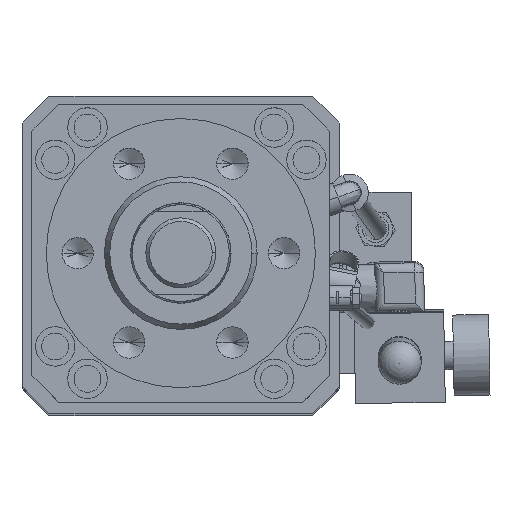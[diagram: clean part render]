
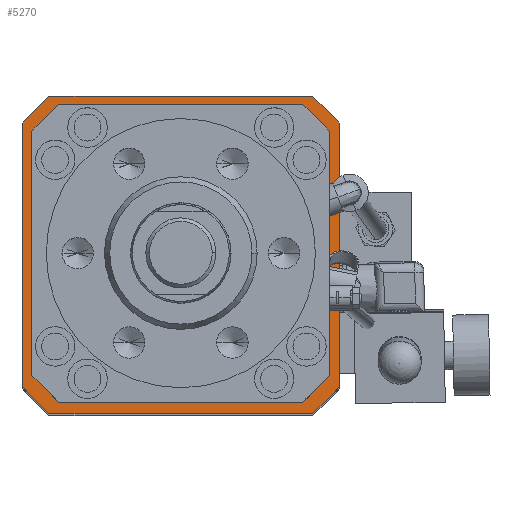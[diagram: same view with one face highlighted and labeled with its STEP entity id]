
A CAD part, top view. The second image highlights one B-rep face of the part: STEP entity #5270.
In plain terms, the highlighted planar face has unit normal (0, 0, 1).
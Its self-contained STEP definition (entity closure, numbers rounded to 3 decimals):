
#133 = CARTESIAN_POINT ( 'NONE',  ( 141.476, 1117.631, 417.23 ) ) ;
#2202 = EDGE_CURVE ( 'NONE', #34269, #32476, #15753, .T. ) ;
#2263 = EDGE_CURVE ( 'NONE', #34367, #30063, #13388, .T. ) ;
#3129 = PLANE ( 'NONE',  #24022 ) ;
#4122 = VERTEX_POINT ( 'NONE', #7003 ) ;
#4289 = LINE ( 'NONE', #9661, #14122 ) ;
#4355 = CARTESIAN_POINT ( 'NONE',  ( 126.476, 1132.631, 417.23 ) ) ;
#5252 = VERTEX_POINT ( 'NONE', #30611 ) ;
#5270 = ADVANCED_FACE ( 'NONE', ( #25023 ), #3129, .F. ) ;
#6155 = ORIENTED_EDGE ( 'NONE', *, *, #10916, .F. ) ;
#6324 = LINE ( 'NONE', #17256, #26218 ) ;
#7003 = CARTESIAN_POINT ( 'NONE',  ( 126.476, 1132.631, 417.23 ) ) ;
#8138 = VERTEX_POINT ( 'NONE', #133 ) ;
#8784 = CARTESIAN_POINT ( 'NONE',  ( 303.476, 1117.631, 417.23 ) ) ;
#9661 = CARTESIAN_POINT ( 'NONE',  ( 126.476, 1117.631, 417.23 ) ) ;
#9965 = EDGE_CURVE ( 'NONE', #4122, #8138, #15498, .T. ) ;
#10916 = EDGE_CURVE ( 'NONE', #34367, #5252, #13757, .T. ) ;
#11179 = ORIENTED_EDGE ( 'NONE', *, *, #29972, .T. ) ;
#11293 = VECTOR ( 'NONE', #13824, 1000. ) ;
#13386 = DIRECTION ( 'NONE',  ( 1., 0., 0. ) ) ;
#13388 = LINE ( 'NONE', #26689, #30345 ) ;
#13757 = LINE ( 'NONE', #18986, #18829 ) ;
#13824 = DIRECTION ( 'NONE',  ( 0., -1., 0. ) ) ;
#14122 = VECTOR ( 'NONE', #29238, 1000. ) ;
#14274 = CARTESIAN_POINT ( 'NONE',  ( 126.476, 1279.631, 417.23 ) ) ;
#15314 = DIRECTION ( 'NONE',  ( 0., 1., 0. ) ) ;
#15498 = LINE ( 'NONE', #4355, #15683 ) ;
#15683 = VECTOR ( 'NONE', #18156, 1000. ) ;
#15753 = LINE ( 'NONE', #21310, #21173 ) ;
#16341 = EDGE_CURVE ( 'NONE', #34269, #8138, #4289, .T. ) ;
#17256 = CARTESIAN_POINT ( 'NONE',  ( 126.476, 1117.631, 417.23 ) ) ;
#18156 = DIRECTION ( 'NONE',  ( 0.707, -0.707, 0. ) ) ;
#18460 = CARTESIAN_POINT ( 'NONE',  ( 303.476, 1132.631, 417.23 ) ) ;
#18829 = VECTOR ( 'NONE', #13386, 1000. ) ;
#18986 = CARTESIAN_POINT ( 'NONE',  ( 126.476, 1294.631, 417.23 ) ) ;
#19130 = DIRECTION ( 'NONE',  ( -0.707, 0.707, 0. ) ) ;
#19583 = LINE ( 'NONE', #8784, #11293 ) ;
#20834 = CARTESIAN_POINT ( 'NONE',  ( 141.476, 1294.631, 417.23 ) ) ;
#20944 = DIRECTION ( 'NONE',  ( -0.707, -0.707, 0. ) ) ;
#21173 = VECTOR ( 'NONE', #34933, 1000. ) ;
#21310 = CARTESIAN_POINT ( 'NONE',  ( 288.476, 1117.631, 417.23 ) ) ;
#21450 = CARTESIAN_POINT ( 'NONE',  ( 303.476, 1279.631, 417.23 ) ) ;
#21915 = EDGE_CURVE ( 'NONE', #31511, #32476, #19583, .T. ) ;
#22865 = DIRECTION ( 'NONE',  ( 1., 0., 0. ) ) ;
#22935 = ORIENTED_EDGE ( 'NONE', *, *, #2202, .T. ) ;
#24022 = AXIS2_PLACEMENT_3D ( 'NONE', #25544, #28404, #22865 ) ;
#25023 = FACE_OUTER_BOUND ( 'NONE', #31984, .T. ) ;
#25544 = CARTESIAN_POINT ( 'NONE',  ( 181.476, 1697.917, 417.23 ) ) ;
#25610 = ORIENTED_EDGE ( 'NONE', *, *, #9965, .T. ) ;
#26218 = VECTOR ( 'NONE', #15314, 1000. ) ;
#26442 = ORIENTED_EDGE ( 'NONE', *, *, #31207, .F. ) ;
#26689 = CARTESIAN_POINT ( 'NONE',  ( 141.476, 1294.631, 417.23 ) ) ;
#26847 = LINE ( 'NONE', #21450, #34673 ) ;
#26900 = CARTESIAN_POINT ( 'NONE',  ( 303.476, 1279.631, 417.23 ) ) ;
#28404 = DIRECTION ( 'NONE',  ( 0., 0., -1. ) ) ;
#28791 = ORIENTED_EDGE ( 'NONE', *, *, #16341, .F. ) ;
#29238 = DIRECTION ( 'NONE',  ( -1., 0., 0. ) ) ;
#29368 = ORIENTED_EDGE ( 'NONE', *, *, #21915, .F. ) ;
#29972 = EDGE_CURVE ( 'NONE', #31511, #5252, #26847, .T. ) ;
#30063 = VERTEX_POINT ( 'NONE', #14274 ) ;
#30345 = VECTOR ( 'NONE', #20944, 1000. ) ;
#30611 = CARTESIAN_POINT ( 'NONE',  ( 288.476, 1294.631, 417.23 ) ) ;
#30743 = CARTESIAN_POINT ( 'NONE',  ( 288.476, 1117.631, 417.23 ) ) ;
#31207 = EDGE_CURVE ( 'NONE', #4122, #30063, #6324, .T. ) ;
#31511 = VERTEX_POINT ( 'NONE', #26900 ) ;
#31984 = EDGE_LOOP ( 'NONE', ( #29368, #11179, #6155, #33150, #26442, #25610, #28791, #22935 ) ) ;
#32476 = VERTEX_POINT ( 'NONE', #18460 ) ;
#33150 = ORIENTED_EDGE ( 'NONE', *, *, #2263, .T. ) ;
#34269 = VERTEX_POINT ( 'NONE', #30743 ) ;
#34367 = VERTEX_POINT ( 'NONE', #20834 ) ;
#34673 = VECTOR ( 'NONE', #19130, 1000. ) ;
#34933 = DIRECTION ( 'NONE',  ( 0.707, 0.707, 0. ) ) ;
